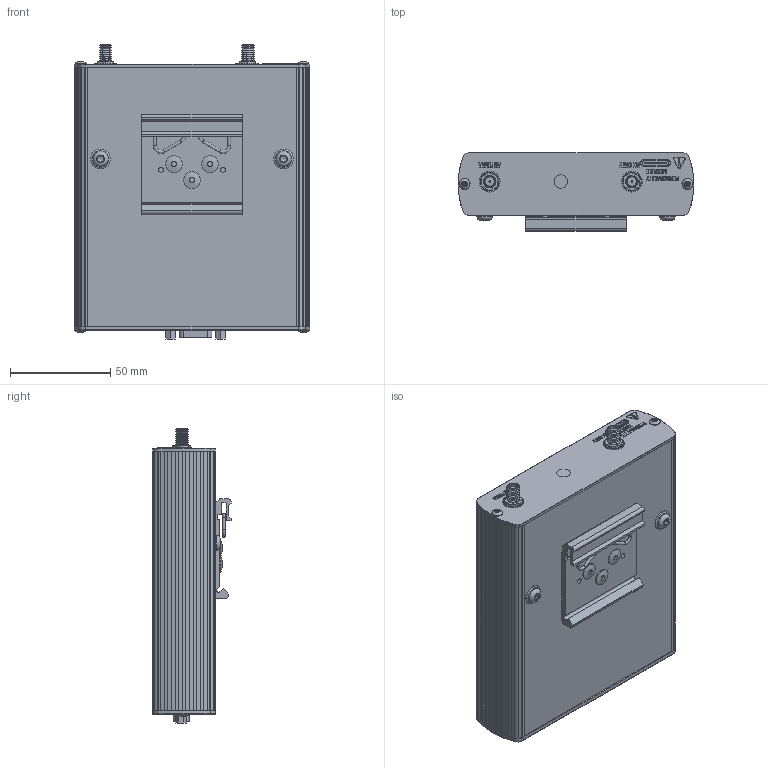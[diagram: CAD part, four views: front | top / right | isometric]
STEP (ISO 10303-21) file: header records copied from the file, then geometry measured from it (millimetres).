
FILE_DESCRIPTION (( '972-0006' ), '1' );
FILE_NAME ('RLX2-IHW 3D Model', 'Revision 00', ( 'ProSoft Technology' ), ( 'ProSoft Technology' ), '', '', '' );
FILE_SCHEMA (( 'AUTOMOTIVE_DESIGN' ));
Length unit declared in the file: millimetre
Products named in the file (1): RLX2-IHW 3D Model
Bounding box: 117.96 x 39.17 x 147.04 mm (x, y, z)
Surface area: 100983.1 mm2 (no closed solid volume)
Topology: 0 solids, 58 shells, 2355 faces, 11314 edges, 8562 vertices
Faces by surface type: plane 1490, bspline 495, cylinder 283, cone 72, sphere 9, torus 6
Full cylindrical faces by diameter (mm): 1.009 x1, 1.016 x8, 1.524 x7, 2.032 x1, 2.156 x2, 2.459 x2, 2.54 x13, 4.699 x2, 5.41 x4, 7.6 x2, 8.331 x3, 9.9 x2, 10.287 x2, 10.414 x1
Entity records: 142006 total; most frequent: CARTESIAN_POINT 34280, ORIENTED_EDGE 15783, DIRECTION 13798, EDGE_CURVE 11184, VERTEX_POINT 8534, LINE 7638, VECTOR 7638, AXIS2_PLACEMENT_3D 3080
